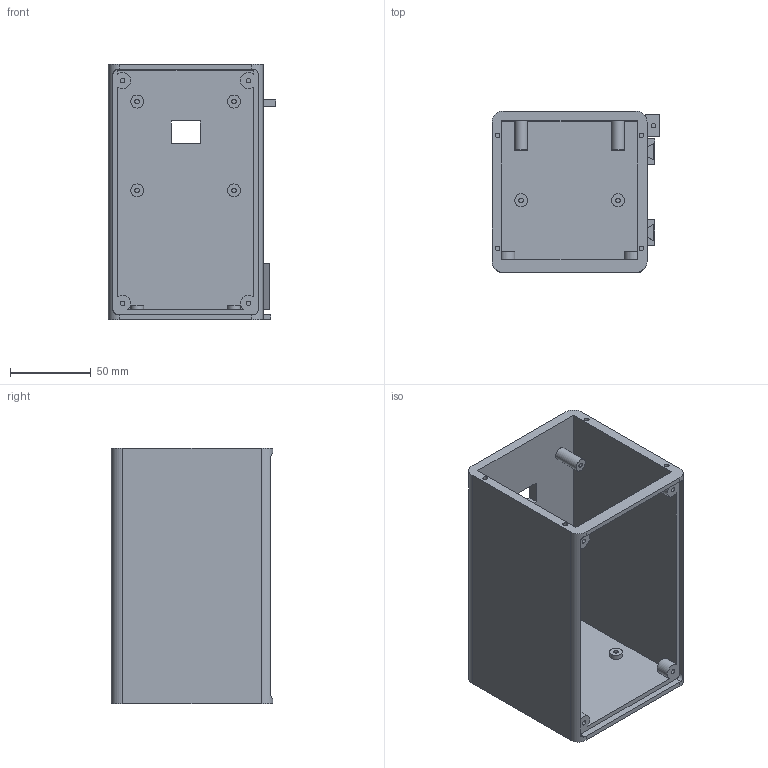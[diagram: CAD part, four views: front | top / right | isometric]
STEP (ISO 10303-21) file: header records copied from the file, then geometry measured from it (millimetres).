
FILE_DESCRIPTION(('Open CASCADE Model'),'2;1');
FILE_NAME('Open CASCADE Shape Model','2026-09-11T20:14:35',('Author'),( 'Open CASCADE'),'Open CASCADE STEP processor 7.9','Open CASCADE 7.9' ,'Unknown');
FILE_SCHEMA(('AUTOMOTIVE_DESIGN { 1 0 10303 214 1 1 1 1 }'));
Length unit declared in the file: millimetre
Products named in the file (1): Open CASCADE STEP translator 7.9 1
Bounding box: 104 x 100 x 158 mm (x, y, z)
Volume: 314961.4 mm3; surface area: 114497.5 mm2
Topology: 1 solids, 1 shells, 100 faces, 237 edges, 158 vertices
Faces by surface type: plane 67, cylinder 33
Full cylindrical faces by diameter (mm): 2.8 x15, 8 x6
Entity records: 6326 total; most frequent: CARTESIAN_POINT 1527, DIRECTION 869, ORIENTED_EDGE 474, LINE 474, VECTOR 474, PCURVE 474, DEFINITIONAL_REPRESENTATION 474, EDGE_CURVE 237
